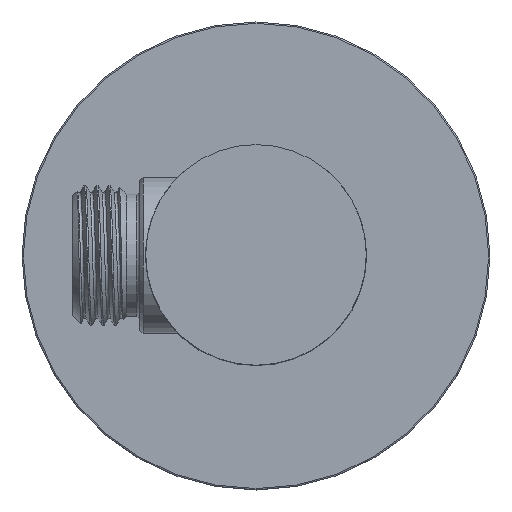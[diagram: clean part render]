
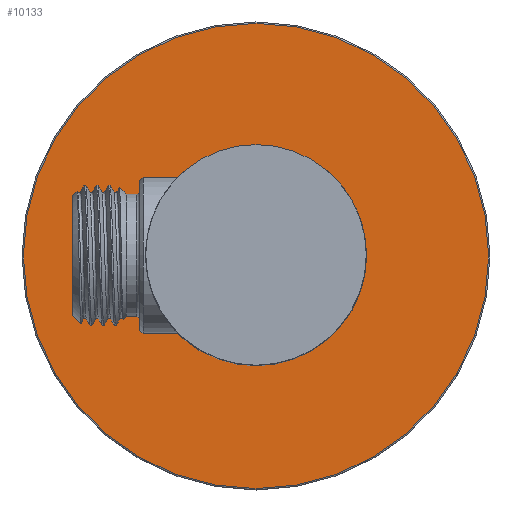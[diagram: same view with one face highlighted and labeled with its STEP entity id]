
A CAD part, top view. The second image highlights one B-rep face of the part: STEP entity #10133.
In plain terms, the highlighted planar face has unit normal (0, 0, 1).
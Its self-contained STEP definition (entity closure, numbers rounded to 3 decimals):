
#10002=CARTESIAN_POINT('',(0.,0.,2.2));
#10003=DIRECTION('',(0.,0.,-1.));
#10004=DIRECTION('',(-1.,0.,0.));
#10005=AXIS2_PLACEMENT_3D('',#10002,#10003,#10004);
#10007=CARTESIAN_POINT('',(0.,0.,2.2));
#10008=DIRECTION('',(0.,0.,-1.));
#10009=DIRECTION('',(1.,0.,0.));
#10010=AXIS2_PLACEMENT_3D('',#10007,#10008,#10009);
#10024=CARTESIAN_POINT('',(-34.8,0.,2.2));
#10025=CARTESIAN_POINT('',(34.8,0.,2.2));
#10026=VERTEX_POINT('',#10024);
#10027=VERTEX_POINT('',#10025);
#10124=CARTESIAN_POINT('',(0.,0.,2.2));
#10125=DIRECTION('',(0.,0.,1.));
#10126=DIRECTION('',(1.,0.,0.));
#10127=AXIS2_PLACEMENT_3D('',#10124,#10125,#10126);
#10128=PLANE('',#10127);
#10129=ORIENTED_EDGE('',*,*,#10104,.T.);
#10130=ORIENTED_EDGE('',*,*,#10118,.T.);
#10131=EDGE_LOOP('',(#10129,#10130));
#10132=FACE_OUTER_BOUND('',#10131,.F.);
#10133=ADVANCED_FACE('',(#10132),#10128,.T.);
#10006=CIRCLE('',#10005,34.8);
#10011=CIRCLE('',#10010,34.8);
#10104=EDGE_CURVE('',#10026,#10027,#10006,.T.);
#10118=EDGE_CURVE('',#10027,#10026,#10011,.T.);
